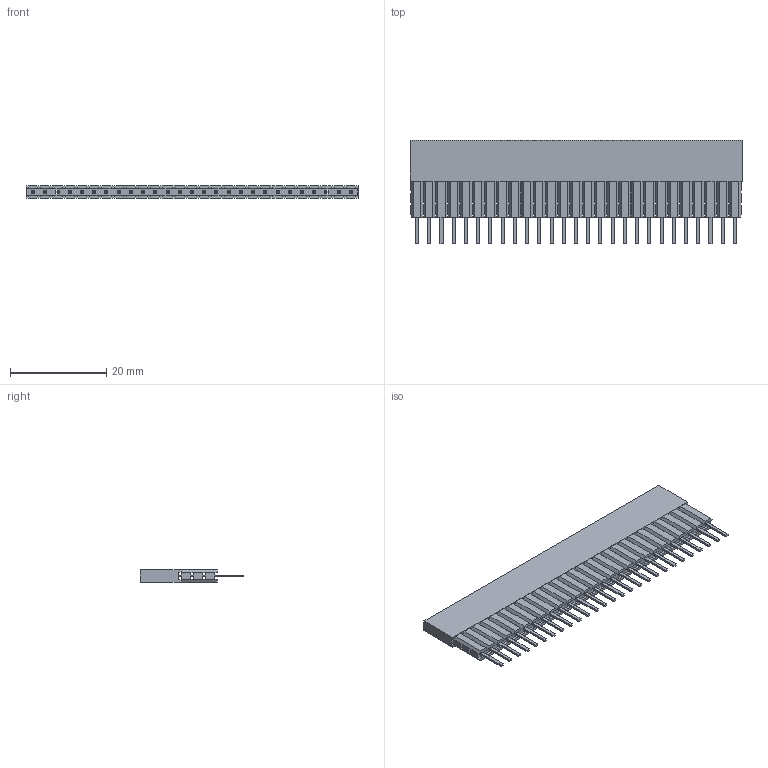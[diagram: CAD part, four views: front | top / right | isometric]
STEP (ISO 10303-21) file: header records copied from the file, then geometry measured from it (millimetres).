
FILE_DESCRIPTION(/* description */ (''),/* implementation_level */ '2;1');
FILE_NAME(/* name */ 'PM254-1-27-Z-C16.0-XX-3LP(L21.5)(2.54 单排 排母 直针 加3层塑胶-HCTL).stp',/* time_stamp */ '2026-10-24T15:37:44+08:00',/* author */ (''),/* organization */ (''),/* preprocessor_version */ 'ST-DEVELOPER v16',/* originating_system */ 'SIEMENS PLM Software NX 10.0',/* authorisation */ '');
FILE_SCHEMA (('AUTOMOTIVE_DESIGN { 1 0 10303 214 3 1 1 1 }'));
Length unit declared in the file: millimetre
Products named in the file (1): PM254-1-N-Z-C16.0-XX-3LP(L21.5)(2.54 单排 排母 
直针 加3层塑胶-HCTL)
Bounding box: 68.98 x 21.5 x 2.5 mm (x, y, z)
Volume: 2373.2 mm3; surface area: 5465.7 mm2
Topology: 2 solids, 2 shells, 1270 faces, 3840 edges, 2308 vertices
Faces by surface type: plane 1270
Entity records: 42129 total; most frequent: ORIENTED_EDGE 7680, CARTESIAN_POINT 7419, DIRECTION 6382, EDGE_CURVE 3840, LINE 3840, VECTOR 3840, VERTEX_POINT 2308, EDGE_LOOP 1486
